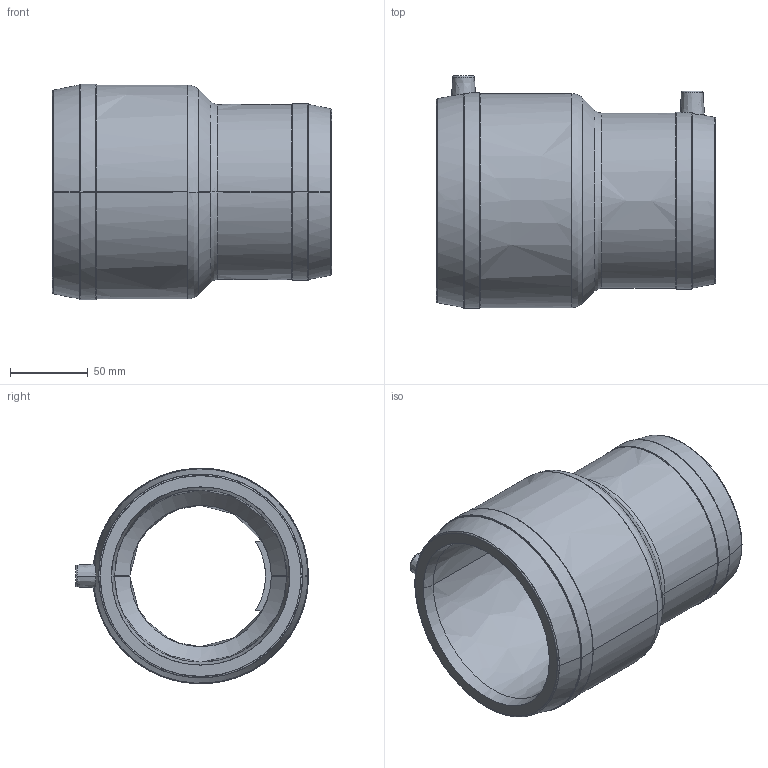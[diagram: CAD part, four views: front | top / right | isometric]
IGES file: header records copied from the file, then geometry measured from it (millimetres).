
Start section:  PTC IGES file: mr_d110-090_01.igs
Global section: file name: mr_d110-090_01.igs; native system: Pro/ENGINEER by Parametric Technology Corporation; preprocessor: 2011490; author: mtunjic; organization: Unknown; date: 20130816.163906; units: millimetre
Bounding box: 180 x 150.15 x 139 mm (x, y, z)
Surface area: 139571.9 mm2 (no closed solid volume)
Topology: 0 solids, 0 shells, 200 faces, 982 edges, 982 vertices
Faces by surface type: bspline 200
